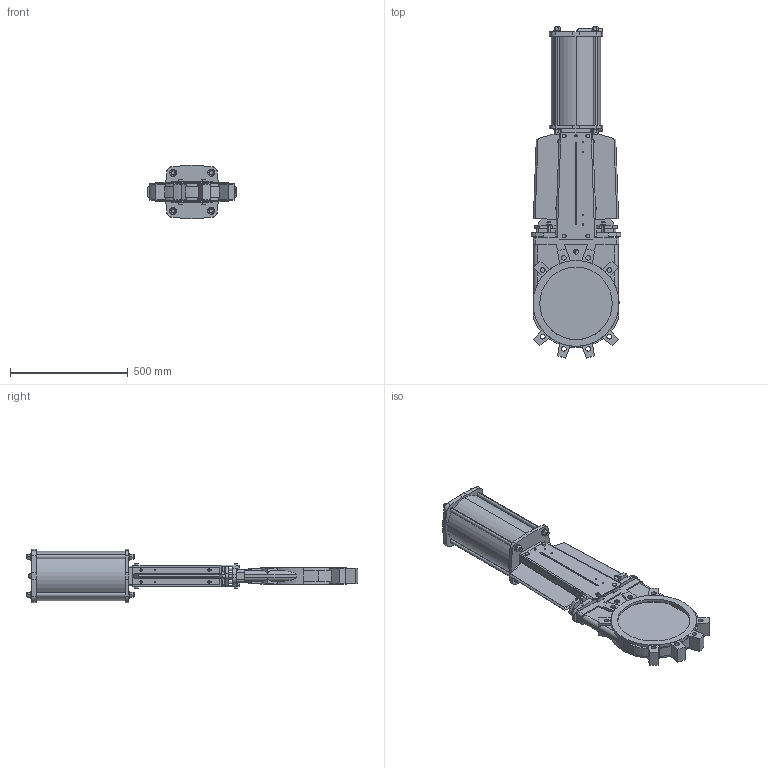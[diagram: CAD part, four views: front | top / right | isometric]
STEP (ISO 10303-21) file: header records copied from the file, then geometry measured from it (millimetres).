
FILE_DESCRIPTION (( 'STEP AP203' ), '1' );
FILE_NAME ('VG P DN300.STEP', '2010-03-10T01:59:29', ( 'farex' ), ( '' ), 'SwSTEP 2.0', 'SolidWorks 2009', '' );
FILE_SCHEMA (( 'CONFIG_CONTROL_DESIGN' ));
Length unit declared in the file: millimetre
Products named in the file (1): VG P DN300
Bounding box: 380 x 1411.05 x 228 mm (x, y, z)
Volume: 11794504.4 mm3; surface area: 2215141.6 mm2
Topology: 2 solids, 24 shells, 1150 faces, 2916 edges, 1904 vertices
Faces by surface type: plane 680, cylinder 343, cone 75, bspline 40, torus 12
Entity records: 37723 total; most frequent: CARTESIAN_POINT 9705, ORIENTED_EDGE 5832, DIRECTION 5687, EDGE_CURVE 2916, AXIS2_PLACEMENT_3D 1932, VERTEX_POINT 1904, VECTOR 1823, LINE 1823
